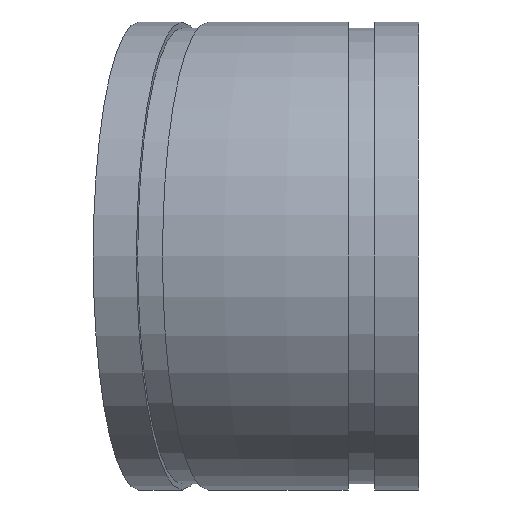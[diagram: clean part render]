
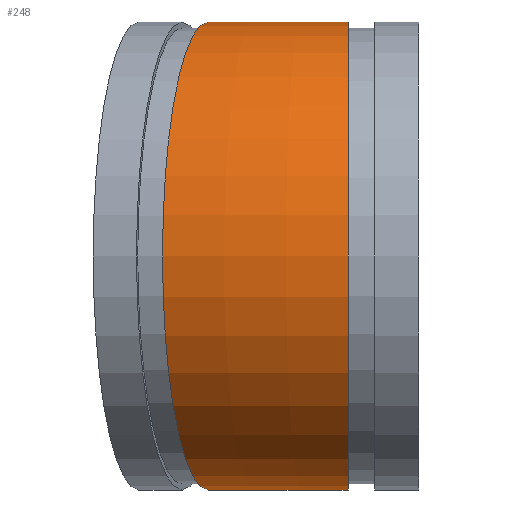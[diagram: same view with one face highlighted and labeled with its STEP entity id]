
A CAD part, left-side view. The second image highlights one B-rep face of the part: STEP entity #248.
In plain terms, the highlighted toroidal (fillet/blend) face has major radius 257.89 mm and minor radius 84.138 mm.
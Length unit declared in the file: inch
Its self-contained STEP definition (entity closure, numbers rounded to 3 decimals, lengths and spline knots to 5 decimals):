
#15=TOROIDAL_SURFACE('',#303,10.15317,3.3125);
#47=FACE_OUTER_BOUND('',#65,.T.);
#65=EDGE_LOOP('',(#190,#191,#192,#193,#194,#195));
#79=CIRCLE('',#283,3.3125);
#80=CIRCLE('',#284,3.3125);
#86=CIRCLE('',#293,3.3125);
#87=CIRCLE('',#294,3.3125);
#95=CIRCLE('',#304,6.84067);
#105=VERTEX_POINT('',#418);
#106=VERTEX_POINT('',#419);
#112=VERTEX_POINT('',#436);
#113=VERTEX_POINT('',#437);
#130=EDGE_CURVE('',#105,#106,#79,.T.);
#131=EDGE_CURVE('',#106,#105,#80,.T.);
#138=EDGE_CURVE('',#112,#113,#86,.T.);
#139=EDGE_CURVE('',#113,#112,#87,.T.);
#147=EDGE_CURVE('',#113,#106,#95,.T.);
#190=ORIENTED_EDGE('',*,*,#138,.T.);
#191=ORIENTED_EDGE('',*,*,#147,.T.);
#192=ORIENTED_EDGE('',*,*,#131,.T.);
#193=ORIENTED_EDGE('',*,*,#130,.T.);
#194=ORIENTED_EDGE('',*,*,#147,.F.);
#195=ORIENTED_EDGE('',*,*,#139,.T.);
#248=ADVANCED_FACE('',(#47),#15,.T.);
#283=AXIS2_PLACEMENT_3D('',#420,#334,#335);
#284=AXIS2_PLACEMENT_3D('',#421,#336,#337);
#293=AXIS2_PLACEMENT_3D('',#438,#355,#356);
#294=AXIS2_PLACEMENT_3D('',#439,#357,#358);
#303=AXIS2_PLACEMENT_3D('',#454,#375,#376);
#304=AXIS2_PLACEMENT_3D('',#455,#377,#378);
#334=DIRECTION('center_axis',(0.,1.,0.));
#335=DIRECTION('ref_axis',(1.,0.,0.));
#336=DIRECTION('center_axis',(0.,1.,0.));
#337=DIRECTION('ref_axis',(1.,0.,0.));
#355=DIRECTION('center_axis',(-0.195,-0.981,0.));
#356=DIRECTION('ref_axis',(0.981,-0.195,0.));
#357=DIRECTION('center_axis',(-0.195,-0.981,0.));
#358=DIRECTION('ref_axis',(0.981,-0.195,0.));
#375=DIRECTION('center_axis',(0.,0.,-1.));
#376=DIRECTION('ref_axis',(-1.,0.,0.));
#377=DIRECTION('center_axis',(0.,0.,1.));
#378=DIRECTION('ref_axis',(-1.,0.,0.));
#418=CARTESIAN_POINT('',(0.,1.,3.3125));
#419=CARTESIAN_POINT('',(3.3125,1.,0.));
#420=CARTESIAN_POINT('Origin',(0.,1.,0.));
#421=CARTESIAN_POINT('Origin',(0.,1.,0.));
#436=CARTESIAN_POINT('',(0.19509,2.98079,3.3125));
#437=CARTESIAN_POINT('',(3.44394,2.33455,0.));
#438=CARTESIAN_POINT('Origin',(0.19509,2.98079,0.));
#439=CARTESIAN_POINT('Origin',(0.19509,2.98079,0.));
#454=CARTESIAN_POINT('Origin',(10.15317,1.,0.));
#455=CARTESIAN_POINT('Origin',(10.15317,1.,0.));
